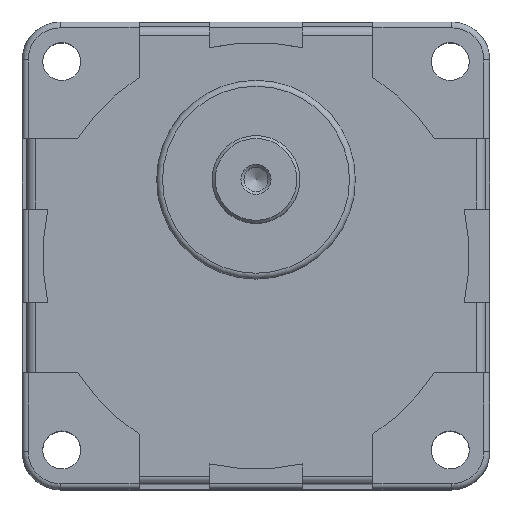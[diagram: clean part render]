
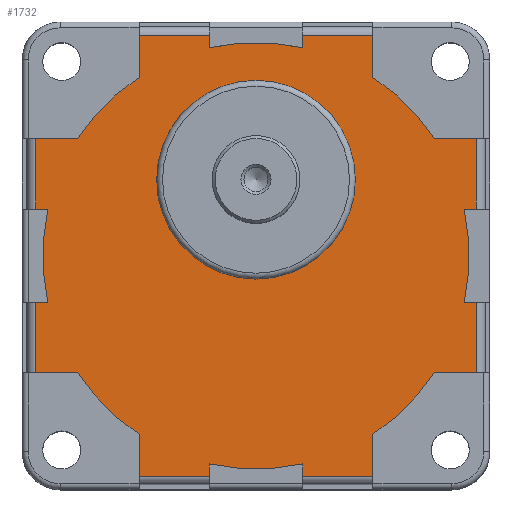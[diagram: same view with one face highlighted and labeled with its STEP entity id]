
A CAD part, top view. The second image highlights one B-rep face of the part: STEP entity #1732.
In plain terms, the highlighted planar face has unit normal (0, 0, 1).
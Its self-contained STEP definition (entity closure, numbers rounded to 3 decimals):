
#25=LINE('',#2626,#188);
#29=LINE('',#2638,#192);
#31=LINE('',#2644,#194);
#32=LINE('',#2648,#195);
#33=LINE('',#2650,#196);
#34=LINE('',#2652,#197);
#35=LINE('',#2656,#198);
#36=LINE('',#2658,#199);
#37=LINE('',#2660,#200);
#38=LINE('',#2664,#201);
#39=LINE('',#2666,#202);
#40=LINE('',#2668,#203);
#41=LINE('',#2672,#204);
#42=LINE('',#2674,#205);
#43=LINE('',#2676,#206);
#44=LINE('',#2680,#207);
#45=LINE('',#2682,#208);
#46=LINE('',#2684,#209);
#47=LINE('',#2688,#210);
#48=LINE('',#2690,#211);
#49=LINE('',#2692,#212);
#50=LINE('',#2695,#213);
#51=LINE('',#2697,#214);
#52=LINE('',#2700,#215);
#188=VECTOR('',#2095,12.);
#192=VECTOR('',#2105,12.);
#194=VECTOR('',#2111,7.167);
#195=VECTOR('',#2114,7.167);
#196=VECTOR('',#2115,12.);
#197=VECTOR('',#2116,2.088);
#198=VECTOR('',#2119,2.088);
#199=VECTOR('',#2120,12.);
#200=VECTOR('',#2121,7.167);
#201=VECTOR('',#2124,7.167);
#202=VECTOR('',#2125,12.);
#203=VECTOR('',#2126,2.088);
#204=VECTOR('',#2129,2.088);
#205=VECTOR('',#2130,12.);
#206=VECTOR('',#2131,7.167);
#207=VECTOR('',#2134,7.167);
#208=VECTOR('',#2135,12.);
#209=VECTOR('',#2136,2.088);
#210=VECTOR('',#2139,2.088);
#211=VECTOR('',#2140,12.);
#212=VECTOR('',#2141,7.167);
#213=VECTOR('',#2144,7.167);
#214=VECTOR('',#2145,2.088);
#215=VECTOR('',#2148,2.088);
#352=PLANE('',#1861);
#454=FACE_BOUND('',#601,.T.);
#482=FACE_OUTER_BOUND('',#600,.T.);
#600=EDGE_LOOP('',(#1257,#1258,#1259,#1260,#1261,#1262,#1263,#1264,#1265,
#1266,#1267,#1268,#1269,#1270,#1271,#1272,#1273,#1274,#1275,#1276,#1277,
#1278,#1279,#1280,#1281,#1282,#1283,#1284,#1285,#1286,#1287,#1288));
#601=EDGE_LOOP('',(#1289));
#712=CIRCLE('',#1852,17.);
#717=CIRCLE('',#1862,36.5);
#718=CIRCLE('',#1863,36.5);
#719=CIRCLE('',#1864,36.5);
#720=CIRCLE('',#1865,36.5);
#721=CIRCLE('',#1866,36.5);
#722=CIRCLE('',#1867,36.5);
#723=CIRCLE('',#1868,36.5);
#724=CIRCLE('',#1869,36.5);
#805=VERTEX_POINT('',#2615);
#806=VERTEX_POINT('',#2619);
#809=VERTEX_POINT('',#2624);
#813=VERTEX_POINT('',#2635);
#814=VERTEX_POINT('',#2637);
#816=VERTEX_POINT('',#2643);
#817=VERTEX_POINT('',#2645);
#818=VERTEX_POINT('',#2647);
#819=VERTEX_POINT('',#2649);
#820=VERTEX_POINT('',#2651);
#821=VERTEX_POINT('',#2653);
#822=VERTEX_POINT('',#2655);
#823=VERTEX_POINT('',#2657);
#824=VERTEX_POINT('',#2659);
#825=VERTEX_POINT('',#2661);
#826=VERTEX_POINT('',#2663);
#827=VERTEX_POINT('',#2665);
#828=VERTEX_POINT('',#2667);
#829=VERTEX_POINT('',#2669);
#830=VERTEX_POINT('',#2671);
#831=VERTEX_POINT('',#2673);
#832=VERTEX_POINT('',#2675);
#833=VERTEX_POINT('',#2677);
#834=VERTEX_POINT('',#2679);
#835=VERTEX_POINT('',#2681);
#836=VERTEX_POINT('',#2683);
#837=VERTEX_POINT('',#2685);
#838=VERTEX_POINT('',#2687);
#839=VERTEX_POINT('',#2689);
#840=VERTEX_POINT('',#2691);
#841=VERTEX_POINT('',#2693);
#842=VERTEX_POINT('',#2696);
#843=VERTEX_POINT('',#2698);
#978=EDGE_CURVE('',#805,#805,#712,.T.);
#982=EDGE_CURVE('',#809,#806,#25,.T.);
#987=EDGE_CURVE('',#813,#814,#29,.T.);
#990=EDGE_CURVE('',#809,#816,#31,.T.);
#991=EDGE_CURVE('',#817,#816,#717,.T.);
#992=EDGE_CURVE('',#818,#817,#32,.T.);
#993=EDGE_CURVE('',#819,#818,#33,.T.);
#994=EDGE_CURVE('',#820,#819,#34,.T.);
#995=EDGE_CURVE('',#821,#820,#718,.T.);
#996=EDGE_CURVE('',#821,#822,#35,.T.);
#997=EDGE_CURVE('',#823,#822,#36,.T.);
#998=EDGE_CURVE('',#823,#824,#37,.T.);
#999=EDGE_CURVE('',#825,#824,#719,.T.);
#1000=EDGE_CURVE('',#826,#825,#38,.T.);
#1001=EDGE_CURVE('',#827,#826,#39,.T.);
#1002=EDGE_CURVE('',#828,#827,#40,.T.);
#1003=EDGE_CURVE('',#829,#828,#720,.T.);
#1004=EDGE_CURVE('',#829,#830,#41,.T.);
#1005=EDGE_CURVE('',#831,#830,#42,.T.);
#1006=EDGE_CURVE('',#831,#832,#43,.T.);
#1007=EDGE_CURVE('',#833,#832,#721,.T.);
#1008=EDGE_CURVE('',#834,#833,#44,.T.);
#1009=EDGE_CURVE('',#835,#834,#45,.T.);
#1010=EDGE_CURVE('',#836,#835,#46,.T.);
#1011=EDGE_CURVE('',#837,#836,#722,.T.);
#1012=EDGE_CURVE('',#837,#838,#47,.T.);
#1013=EDGE_CURVE('',#839,#838,#48,.T.);
#1014=EDGE_CURVE('',#839,#840,#49,.T.);
#1015=EDGE_CURVE('',#841,#840,#723,.T.);
#1016=EDGE_CURVE('',#814,#841,#50,.T.);
#1017=EDGE_CURVE('',#842,#813,#51,.T.);
#1018=EDGE_CURVE('',#843,#842,#724,.T.);
#1019=EDGE_CURVE('',#843,#806,#52,.T.);
#1257=ORIENTED_EDGE('',*,*,#982,.F.);
#1258=ORIENTED_EDGE('',*,*,#990,.T.);
#1259=ORIENTED_EDGE('',*,*,#991,.F.);
#1260=ORIENTED_EDGE('',*,*,#992,.F.);
#1261=ORIENTED_EDGE('',*,*,#993,.F.);
#1262=ORIENTED_EDGE('',*,*,#994,.F.);
#1263=ORIENTED_EDGE('',*,*,#995,.F.);
#1264=ORIENTED_EDGE('',*,*,#996,.T.);
#1265=ORIENTED_EDGE('',*,*,#997,.F.);
#1266=ORIENTED_EDGE('',*,*,#998,.T.);
#1267=ORIENTED_EDGE('',*,*,#999,.F.);
#1268=ORIENTED_EDGE('',*,*,#1000,.F.);
#1269=ORIENTED_EDGE('',*,*,#1001,.F.);
#1270=ORIENTED_EDGE('',*,*,#1002,.F.);
#1271=ORIENTED_EDGE('',*,*,#1003,.F.);
#1272=ORIENTED_EDGE('',*,*,#1004,.T.);
#1273=ORIENTED_EDGE('',*,*,#1005,.F.);
#1274=ORIENTED_EDGE('',*,*,#1006,.T.);
#1275=ORIENTED_EDGE('',*,*,#1007,.F.);
#1276=ORIENTED_EDGE('',*,*,#1008,.F.);
#1277=ORIENTED_EDGE('',*,*,#1009,.F.);
#1278=ORIENTED_EDGE('',*,*,#1010,.F.);
#1279=ORIENTED_EDGE('',*,*,#1011,.F.);
#1280=ORIENTED_EDGE('',*,*,#1012,.T.);
#1281=ORIENTED_EDGE('',*,*,#1013,.F.);
#1282=ORIENTED_EDGE('',*,*,#1014,.T.);
#1283=ORIENTED_EDGE('',*,*,#1015,.F.);
#1284=ORIENTED_EDGE('',*,*,#1016,.F.);
#1285=ORIENTED_EDGE('',*,*,#987,.F.);
#1286=ORIENTED_EDGE('',*,*,#1017,.F.);
#1287=ORIENTED_EDGE('',*,*,#1018,.F.);
#1288=ORIENTED_EDGE('',*,*,#1019,.T.);
#1289=ORIENTED_EDGE('',*,*,#978,.F.);
#1732=ADVANCED_FACE('',(#482,#454),#352,.T.);
#1852=AXIS2_PLACEMENT_3D('',#2616,#2084,#2085);
#1861=AXIS2_PLACEMENT_3D('',#2642,#2109,#2110);
#1862=AXIS2_PLACEMENT_3D('',#2646,#2112,#2113);
#1863=AXIS2_PLACEMENT_3D('',#2654,#2117,#2118);
#1864=AXIS2_PLACEMENT_3D('',#2662,#2122,#2123);
#1865=AXIS2_PLACEMENT_3D('',#2670,#2127,#2128);
#1866=AXIS2_PLACEMENT_3D('',#2678,#2132,#2133);
#1867=AXIS2_PLACEMENT_3D('',#2686,#2137,#2138);
#1868=AXIS2_PLACEMENT_3D('',#2694,#2142,#2143);
#1869=AXIS2_PLACEMENT_3D('',#2699,#2146,#2147);
#2084=DIRECTION('center_axis',(0.,0.,1.));
#2085=DIRECTION('ref_axis',(-1.,0.,0.));
#2095=DIRECTION('',(0.,-1.,0.));
#2105=DIRECTION('',(0.,-1.,0.));
#2109=DIRECTION('center_axis',(0.,0.,1.));
#2110=DIRECTION('ref_axis',(1.,0.,0.));
#2111=DIRECTION('',(-1.,0.,0.));
#2112=DIRECTION('center_axis',(0.,0.,-1.));
#2113=DIRECTION('ref_axis',(-1.,0.,0.));
#2114=DIRECTION('',(0.,-1.,0.));
#2115=DIRECTION('',(1.,0.,0.));
#2116=DIRECTION('',(0.,1.,0.));
#2117=DIRECTION('center_axis',(0.,0.,-1.));
#2118=DIRECTION('ref_axis',(-1.,0.,0.));
#2119=DIRECTION('',(0.,1.,0.));
#2120=DIRECTION('',(1.,0.,0.));
#2121=DIRECTION('',(0.,-1.,0.));
#2122=DIRECTION('center_axis',(0.,0.,-1.));
#2123=DIRECTION('ref_axis',(-1.,0.,0.));
#2124=DIRECTION('',(1.,0.,0.));
#2125=DIRECTION('',(0.,1.,0.));
#2126=DIRECTION('',(-1.,0.,0.));
#2127=DIRECTION('center_axis',(0.,0.,-1.));
#2128=DIRECTION('ref_axis',(-1.,0.,0.));
#2129=DIRECTION('',(-1.,0.,0.));
#2130=DIRECTION('',(0.,1.,0.));
#2131=DIRECTION('',(1.,0.,0.));
#2132=DIRECTION('center_axis',(0.,0.,-1.));
#2133=DIRECTION('ref_axis',(-1.,0.,0.));
#2134=DIRECTION('',(0.,1.,0.));
#2135=DIRECTION('',(-1.,0.,0.));
#2136=DIRECTION('',(0.,-1.,0.));
#2137=DIRECTION('center_axis',(0.,0.,-1.));
#2138=DIRECTION('ref_axis',(-1.,0.,0.));
#2139=DIRECTION('',(0.,-1.,0.));
#2140=DIRECTION('',(-1.,0.,0.));
#2141=DIRECTION('',(0.,1.,0.));
#2142=DIRECTION('center_axis',(0.,0.,-1.));
#2143=DIRECTION('ref_axis',(-1.,0.,0.));
#2144=DIRECTION('',(-1.,0.,0.));
#2145=DIRECTION('',(1.,0.,0.));
#2146=DIRECTION('center_axis',(0.,0.,-1.));
#2147=DIRECTION('ref_axis',(-1.,0.,0.));
#2148=DIRECTION('',(1.,0.,0.));
#2615=CARTESIAN_POINT('',(17.,13.,45.2));
#2616=CARTESIAN_POINT('Origin',(0.,13.,45.2));
#2619=CARTESIAN_POINT('',(37.7,8.,45.2));
#2624=CARTESIAN_POINT('',(37.7,20.,45.2));
#2626=CARTESIAN_POINT('',(37.7,10.,45.2));
#2635=CARTESIAN_POINT('',(37.7,-8.,45.2));
#2637=CARTESIAN_POINT('',(37.7,-20.,45.2));
#2638=CARTESIAN_POINT('',(37.7,-10.,45.2));
#2642=CARTESIAN_POINT('Origin',(0.,0.,45.2));
#2643=CARTESIAN_POINT('',(30.533,20.,45.2));
#2644=CARTESIAN_POINT('',(30.533,20.,45.2));
#2645=CARTESIAN_POINT('',(20.,30.533,45.2));
#2646=CARTESIAN_POINT('Origin',(0.,0.,45.2));
#2647=CARTESIAN_POINT('',(20.,37.7,45.2));
#2648=CARTESIAN_POINT('',(20.,30.533,45.2));
#2649=CARTESIAN_POINT('',(8.,37.7,45.2));
#2650=CARTESIAN_POINT('',(10.,37.7,45.2));
#2651=CARTESIAN_POINT('',(8.,35.612,45.2));
#2652=CARTESIAN_POINT('',(8.,40.,45.2));
#2653=CARTESIAN_POINT('',(-8.,35.612,45.2));
#2654=CARTESIAN_POINT('Origin',(0.,0.,45.2));
#2655=CARTESIAN_POINT('',(-8.,37.7,45.2));
#2656=CARTESIAN_POINT('',(-8.,40.,45.2));
#2657=CARTESIAN_POINT('',(-20.,37.7,45.2));
#2658=CARTESIAN_POINT('',(-10.,37.7,45.2));
#2659=CARTESIAN_POINT('',(-20.,30.533,45.2));
#2660=CARTESIAN_POINT('',(-20.,30.533,45.2));
#2661=CARTESIAN_POINT('',(-30.533,20.,45.2));
#2662=CARTESIAN_POINT('Origin',(0.,0.,45.2));
#2663=CARTESIAN_POINT('',(-37.7,20.,45.2));
#2664=CARTESIAN_POINT('',(-30.533,20.,45.2));
#2665=CARTESIAN_POINT('',(-37.7,8.,45.2));
#2666=CARTESIAN_POINT('',(-37.7,10.,45.2));
#2667=CARTESIAN_POINT('',(-35.612,8.,45.2));
#2668=CARTESIAN_POINT('',(-40.,8.,45.2));
#2669=CARTESIAN_POINT('',(-35.612,-8.,45.2));
#2670=CARTESIAN_POINT('Origin',(0.,0.,45.2));
#2671=CARTESIAN_POINT('',(-37.7,-8.,45.2));
#2672=CARTESIAN_POINT('',(-40.,-8.,45.2));
#2673=CARTESIAN_POINT('',(-37.7,-20.,45.2));
#2674=CARTESIAN_POINT('',(-37.7,-10.,45.2));
#2675=CARTESIAN_POINT('',(-30.533,-20.,45.2));
#2676=CARTESIAN_POINT('',(-30.533,-20.,45.2));
#2677=CARTESIAN_POINT('',(-20.,-30.533,45.2));
#2678=CARTESIAN_POINT('Origin',(0.,0.,45.2));
#2679=CARTESIAN_POINT('',(-20.,-37.7,45.2));
#2680=CARTESIAN_POINT('',(-20.,-30.533,45.2));
#2681=CARTESIAN_POINT('',(-8.,-37.7,45.2));
#2682=CARTESIAN_POINT('',(-10.,-37.7,45.2));
#2683=CARTESIAN_POINT('',(-8.,-35.612,45.2));
#2684=CARTESIAN_POINT('',(-8.,-40.,45.2));
#2685=CARTESIAN_POINT('',(8.,-35.612,45.2));
#2686=CARTESIAN_POINT('Origin',(0.,0.,45.2));
#2687=CARTESIAN_POINT('',(8.,-37.7,45.2));
#2688=CARTESIAN_POINT('',(8.,-40.,45.2));
#2689=CARTESIAN_POINT('',(20.,-37.7,45.2));
#2690=CARTESIAN_POINT('',(10.,-37.7,45.2));
#2691=CARTESIAN_POINT('',(20.,-30.533,45.2));
#2692=CARTESIAN_POINT('',(20.,-30.533,45.2));
#2693=CARTESIAN_POINT('',(30.533,-20.,45.2));
#2694=CARTESIAN_POINT('Origin',(0.,0.,45.2));
#2695=CARTESIAN_POINT('',(30.533,-20.,45.2));
#2696=CARTESIAN_POINT('',(35.612,-8.,45.2));
#2697=CARTESIAN_POINT('',(40.,-8.,45.2));
#2698=CARTESIAN_POINT('',(35.612,8.,45.2));
#2699=CARTESIAN_POINT('Origin',(0.,0.,45.2));
#2700=CARTESIAN_POINT('',(40.,8.,45.2));
